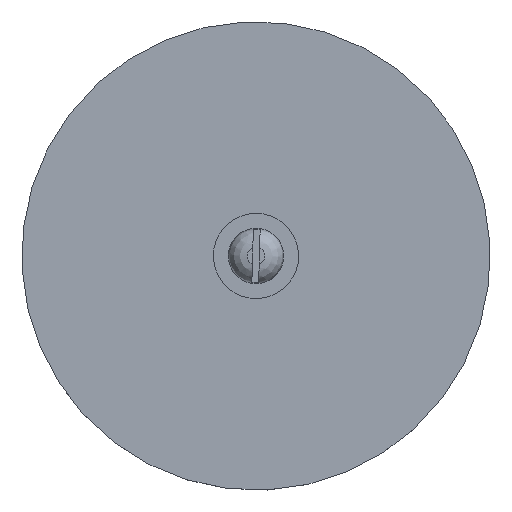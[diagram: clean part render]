
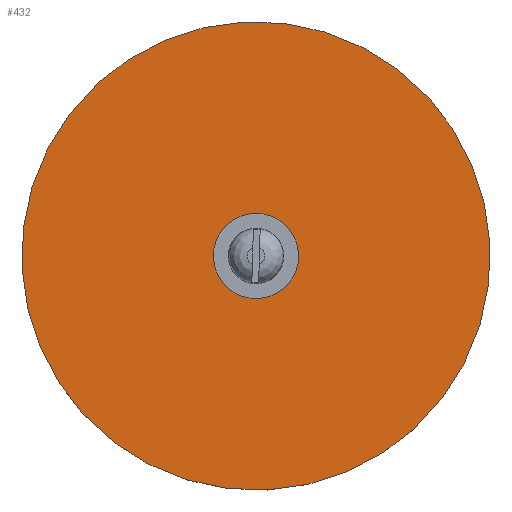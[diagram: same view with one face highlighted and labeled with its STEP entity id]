
A CAD part, top view. The second image highlights one B-rep face of the part: STEP entity #432.
In plain terms, the highlighted planar face has unit normal (0, 0, 1).
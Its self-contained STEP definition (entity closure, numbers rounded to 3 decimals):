
#58=FACE_BOUND('',#130,.T.);
#68=PLANE('',#562);
#97=FACE_OUTER_BOUND('',#129,.T.);
#129=EDGE_LOOP('',(#346));
#130=EDGE_LOOP('',(#347));
#194=CIRCLE('',#559,0.8);
#195=CIRCLE('',#561,11.);
#227=VERTEX_POINT('',#811);
#228=VERTEX_POINT('',#815);
#268=EDGE_CURVE('',#227,#227,#194,.T.);
#270=EDGE_CURVE('',#228,#228,#195,.T.);
#346=ORIENTED_EDGE('',*,*,#270,.T.);
#347=ORIENTED_EDGE('',*,*,#268,.T.);
#432=ADVANCED_FACE('',(#97,#58),#68,.T.);
#559=AXIS2_PLACEMENT_3D('',#812,#664,#665);
#561=AXIS2_PLACEMENT_3D('',#816,#669,#670);
#562=AXIS2_PLACEMENT_3D('',#818,#672,#673);
#664=DIRECTION('center_axis',(0.,0.,-1.));
#665=DIRECTION('ref_axis',(-1.,0.,0.));
#669=DIRECTION('center_axis',(0.,0.,1.));
#670=DIRECTION('ref_axis',(1.,0.,0.));
#672=DIRECTION('center_axis',(0.,0.,1.));
#673=DIRECTION('ref_axis',(1.,0.,0.));
#811=CARTESIAN_POINT('',(0.8,0.,0.4));
#812=CARTESIAN_POINT('Origin',(0.,0.,0.4));
#815=CARTESIAN_POINT('',(-11.,0.,0.4));
#816=CARTESIAN_POINT('Origin',(0.,0.,0.4));
#818=CARTESIAN_POINT('Origin',(0.,0.,0.4));
